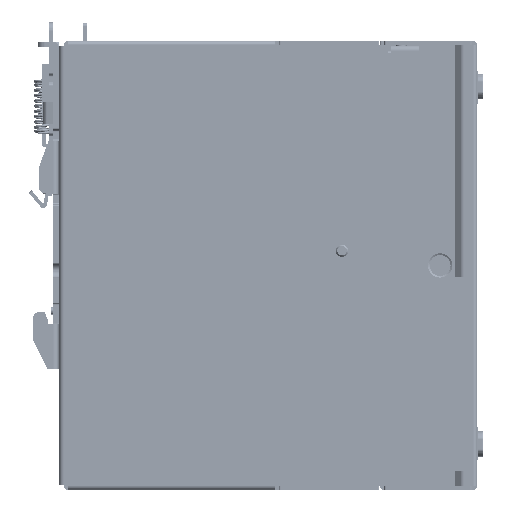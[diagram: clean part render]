
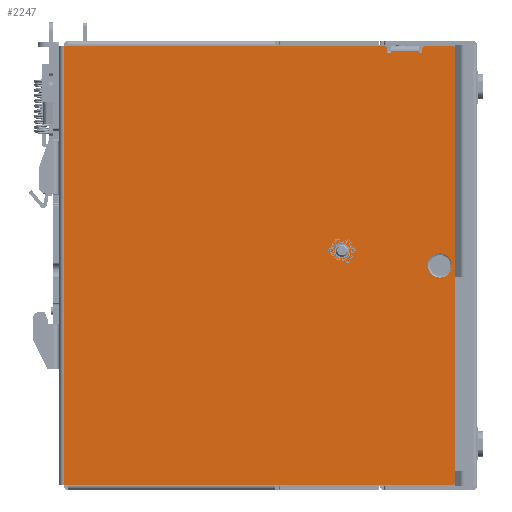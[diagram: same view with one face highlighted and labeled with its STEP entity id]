
A CAD part, front view. The second image highlights one B-rep face of the part: STEP entity #2247.
In plain terms, the highlighted planar face has unit normal (0, -1, 0).
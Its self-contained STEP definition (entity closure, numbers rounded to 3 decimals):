
#15=CARTESIAN_POINT('',(76.5,0.,-56.971));
#16=DIRECTION('',(0.,1.,0.));
#17=DIRECTION('',(0.,0.,1.));
#18=AXIS2_PLACEMENT_3D('',#15,#16,#17);
#24=CARTESIAN_POINT('',(76.5,0.,-56.971));
#25=DIRECTION('',(0.,1.,0.));
#26=DIRECTION('',(0.,0.,-1.));
#27=AXIS2_PLACEMENT_3D('',#24,#25,#26);
#32=CARTESIAN_POINT('',(103.5,0.,-61.));
#33=DIRECTION('',(0.,1.,0.));
#34=DIRECTION('',(0.,0.,1.));
#35=AXIS2_PLACEMENT_3D('',#32,#33,#34);
#40=CARTESIAN_POINT('',(103.5,0.,-61.));
#41=DIRECTION('',(0.,1.,0.));
#42=DIRECTION('',(0.,0.,-1.));
#43=AXIS2_PLACEMENT_3D('',#40,#41,#42);
#48=CARTESIAN_POINT('',(87.9,0.,-1.5));
#49=DIRECTION('',(0.,-1.,0.));
#50=DIRECTION('',(1.,0.,0.));
#51=AXIS2_PLACEMENT_3D('',#48,#49,#50);
#56=DIRECTION('',(0.,0.,-1.));
#57=VECTOR('',#56,0.8);
#58=CARTESIAN_POINT('',(88.9,0.,-1.5));
#59=LINE('',#58,#57);
#63=DIRECTION('',(-1.,0.,0.));
#64=VECTOR('',#63,0.6);
#65=CARTESIAN_POINT('',(89.7,0.,-2.5));
#66=LINE('',#65,#64);
#70=DIRECTION('',(0.,0.,-1.));
#71=VECTOR('',#70,0.3);
#72=CARTESIAN_POINT('',(89.9,0.,-2.));
#73=LINE('',#72,#71);
#77=DIRECTION('',(0.,0.,-1.));
#78=VECTOR('',#77,0.3);
#79=CARTESIAN_POINT('',(97.6,0.,-2.));
#80=LINE('',#79,#78);
#84=DIRECTION('',(-1.,0.,0.));
#85=VECTOR('',#84,0.6);
#86=CARTESIAN_POINT('',(98.4,0.,-2.5));
#87=LINE('',#86,#85);
#91=DIRECTION('',(0.,0.,-1.));
#92=VECTOR('',#91,0.8);
#93=CARTESIAN_POINT('',(98.6,0.,-1.5));
#94=LINE('',#93,#92);
#98=CARTESIAN_POINT('',(99.6,0.,-1.5));
#99=DIRECTION('',(0.,-1.,0.));
#100=DIRECTION('',(0.,0.,1.));
#101=AXIS2_PLACEMENT_3D('',#98,#99,#100);
#106=DIRECTION('',(1.,0.,0.));
#107=VECTOR('',#106,7.);
#108=CARTESIAN_POINT('',(99.6,0.,-0.5));
#109=LINE('',#108,#107);
#113=CARTESIAN_POINT('',(106.6,0.,-1.5));
#114=DIRECTION('',(0.,-1.,0.));
#115=DIRECTION('',(1.,0.,0.));
#116=AXIS2_PLACEMENT_3D('',#113,#114,#115);
#121=DIRECTION('',(0.,0.,-1.));
#122=VECTOR('',#121,119.);
#123=CARTESIAN_POINT('',(107.6,0.,-1.5));
#124=LINE('',#123,#122);
#128=CARTESIAN_POINT('',(106.6,0.,-120.5));
#129=DIRECTION('',(0.,-1.,0.));
#130=DIRECTION('',(0.,0.,-1.));
#131=AXIS2_PLACEMENT_3D('',#128,#129,#130);
#136=DIRECTION('',(1.,0.,0.));
#137=VECTOR('',#136,106.6);
#138=CARTESIAN_POINT('',(0.,0.,-121.5));
#139=LINE('',#138,#137);
#143=DIRECTION('',(1.,0.,0.));
#144=VECTOR('',#143,87.9);
#145=CARTESIAN_POINT('',(0.,0.,-0.5));
#146=LINE('',#145,#144);
#505=DIRECTION('',(1.,0.,0.));
#506=VECTOR('',#505,7.7);
#507=CARTESIAN_POINT('',(89.9,0.,-2.));
#508=LINE('',#507,#506);
#541=CARTESIAN_POINT('',(97.8,0.,-2.3));
#542=DIRECTION('',(0.,1.,0.));
#543=DIRECTION('',(0.,0.,-1.));
#544=AXIS2_PLACEMENT_3D('',#541,#542,#543);
#571=CARTESIAN_POINT('',(98.4,0.,-2.3));
#572=DIRECTION('',(0.,1.,0.));
#573=DIRECTION('',(1.,0.,0.));
#574=AXIS2_PLACEMENT_3D('',#571,#572,#573);
#1773=CARTESIAN_POINT('',(89.1,0.,-2.3));
#1774=DIRECTION('',(0.,1.,0.));
#1775=DIRECTION('',(0.,0.,-1.));
#1776=AXIS2_PLACEMENT_3D('',#1773,#1774,#1775);
#1803=CARTESIAN_POINT('',(89.7,0.,-2.3));
#1804=DIRECTION('',(0.,1.,0.));
#1805=DIRECTION('',(1.,0.,0.));
#1806=AXIS2_PLACEMENT_3D('',#1803,#1804,#1805);
#1849=DIRECTION('',(0.,0.,1.));
#1850=VECTOR('',#1849,121.);
#1851=CARTESIAN_POINT('',(0.,0.,-121.5));
#1852=LINE('',#1851,#1850);
#1948=CARTESIAN_POINT('',(76.5,0.,-54.971));
#1949=CARTESIAN_POINT('',(76.5,0.,-58.971));
#1950=VERTEX_POINT('',#1948);
#1951=VERTEX_POINT('',#1949);
#1960=CARTESIAN_POINT('',(103.5,0.,-57.65));
#1961=CARTESIAN_POINT('',(103.5,0.,-64.35));
#1962=VERTEX_POINT('',#1960);
#1963=VERTEX_POINT('',#1961);
#1981=CARTESIAN_POINT('',(0.,0.,-121.5));
#1983=VERTEX_POINT('',#1981);
#1985=CARTESIAN_POINT('',(0.,0.,-0.5));
#1987=VERTEX_POINT('',#1985);
#2000=CARTESIAN_POINT('',(107.6,0.,-1.5));
#2001=CARTESIAN_POINT('',(106.6,0.,-0.5));
#2002=VERTEX_POINT('',#2000);
#2003=VERTEX_POINT('',#2001);
#2016=CARTESIAN_POINT('',(106.6,0.,-121.5));
#2017=CARTESIAN_POINT('',(107.6,0.,-120.5));
#2018=VERTEX_POINT('',#2016);
#2019=VERTEX_POINT('',#2017);
#2028=CARTESIAN_POINT('',(97.6,0.,-2.));
#2029=VERTEX_POINT('',#2028);
#2030=CARTESIAN_POINT('',(89.9,0.,-2.));
#2031=VERTEX_POINT('',#2030);
#2036=CARTESIAN_POINT('',(88.9,0.,-1.5));
#2037=CARTESIAN_POINT('',(87.9,0.,-0.5));
#2038=VERTEX_POINT('',#2036);
#2039=VERTEX_POINT('',#2037);
#2044=CARTESIAN_POINT('',(99.6,0.,-0.5));
#2045=CARTESIAN_POINT('',(98.6,0.,-1.5));
#2046=VERTEX_POINT('',#2044);
#2047=VERTEX_POINT('',#2045);
#2052=CARTESIAN_POINT('',(89.1,0.,-2.5));
#2054=VERTEX_POINT('',#2052);
#2056=CARTESIAN_POINT('',(88.9,0.,-2.3));
#2058=VERTEX_POINT('',#2056);
#2060=CARTESIAN_POINT('',(97.8,0.,-2.5));
#2062=VERTEX_POINT('',#2060);
#2064=CARTESIAN_POINT('',(97.6,0.,-2.3));
#2066=VERTEX_POINT('',#2064);
#2068=CARTESIAN_POINT('',(98.6,0.,-2.3));
#2070=VERTEX_POINT('',#2068);
#2072=CARTESIAN_POINT('',(98.4,0.,-2.5));
#2074=VERTEX_POINT('',#2072);
#2076=CARTESIAN_POINT('',(89.9,0.,-2.3));
#2078=VERTEX_POINT('',#2076);
#2080=CARTESIAN_POINT('',(89.7,0.,-2.5));
#2082=VERTEX_POINT('',#2080);
#2188=CARTESIAN_POINT('',(0.,0.,0.));
#2189=DIRECTION('',(0.,1.,0.));
#2190=DIRECTION('',(1.,0.,0.));
#2191=AXIS2_PLACEMENT_3D('',#2188,#2189,#2190);
#2192=PLANE('',#2191);
#2194=ORIENTED_EDGE('',*,*,#2193,.F.);
#2196=ORIENTED_EDGE('',*,*,#2195,.T.);
#2198=ORIENTED_EDGE('',*,*,#2197,.F.);
#2200=ORIENTED_EDGE('',*,*,#2199,.F.);
#2202=ORIENTED_EDGE('',*,*,#2201,.F.);
#2204=ORIENTED_EDGE('',*,*,#2203,.F.);
#2206=ORIENTED_EDGE('',*,*,#2205,.T.);
#2208=ORIENTED_EDGE('',*,*,#2207,.T.);
#2210=ORIENTED_EDGE('',*,*,#2209,.F.);
#2212=ORIENTED_EDGE('',*,*,#2211,.F.);
#2214=ORIENTED_EDGE('',*,*,#2213,.F.);
#2216=ORIENTED_EDGE('',*,*,#2215,.F.);
#2218=ORIENTED_EDGE('',*,*,#2217,.F.);
#2220=ORIENTED_EDGE('',*,*,#2219,.T.);
#2222=ORIENTED_EDGE('',*,*,#2221,.F.);
#2224=ORIENTED_EDGE('',*,*,#2223,.T.);
#2226=ORIENTED_EDGE('',*,*,#2225,.F.);
#2228=ORIENTED_EDGE('',*,*,#2227,.F.);
#2230=ORIENTED_EDGE('',*,*,#2229,.T.);
#2232=ORIENTED_EDGE('',*,*,#2231,.T.);
#2233=EDGE_LOOP('',(#2194,#2196,#2198,#2200,#2202,#2204,#2206,#2208,#2210,#2212,
#2214,#2216,#2218,#2220,#2222,#2224,#2226,#2228,#2230,#2232));
#2234=FACE_OUTER_BOUND('',#2233,.F.);
#2236=ORIENTED_EDGE('',*,*,#2235,.F.);
#2238=ORIENTED_EDGE('',*,*,#2237,.F.);
#2239=EDGE_LOOP('',(#2236,#2238));
#2240=FACE_BOUND('',#2239,.F.);
#2242=ORIENTED_EDGE('',*,*,#2241,.F.);
#2244=ORIENTED_EDGE('',*,*,#2243,.F.);
#2245=EDGE_LOOP('',(#2242,#2244));
#2246=FACE_BOUND('',#2245,.F.);
#19=CIRCLE('',#18,2.);
#28=CIRCLE('',#27,2.);
#36=CIRCLE('',#35,3.35);
#44=CIRCLE('',#43,3.35);
#52=CIRCLE('',#51,1.);
#102=CIRCLE('',#101,1.);
#117=CIRCLE('',#116,1.);
#132=CIRCLE('',#131,1.);
#545=CIRCLE('',#544,0.2);
#575=CIRCLE('',#574,0.2);
#1777=CIRCLE('',#1776,0.2);
#1807=CIRCLE('',#1806,0.2);
#2193=EDGE_CURVE('',#2038,#2039,#52,.T.);
#2195=EDGE_CURVE('',#2038,#2058,#59,.T.);
#2197=EDGE_CURVE('',#2054,#2058,#1777,.T.);
#2199=EDGE_CURVE('',#2082,#2054,#66,.T.);
#2201=EDGE_CURVE('',#2078,#2082,#1807,.T.);
#2203=EDGE_CURVE('',#2031,#2078,#73,.T.);
#2205=EDGE_CURVE('',#2031,#2029,#508,.T.);
#2207=EDGE_CURVE('',#2029,#2066,#80,.T.);
#2209=EDGE_CURVE('',#2062,#2066,#545,.T.);
#2211=EDGE_CURVE('',#2074,#2062,#87,.T.);
#2213=EDGE_CURVE('',#2070,#2074,#575,.T.);
#2215=EDGE_CURVE('',#2047,#2070,#94,.T.);
#2217=EDGE_CURVE('',#2046,#2047,#102,.T.);
#2219=EDGE_CURVE('',#2046,#2003,#109,.T.);
#2221=EDGE_CURVE('',#2002,#2003,#117,.T.);
#2223=EDGE_CURVE('',#2002,#2019,#124,.T.);
#2225=EDGE_CURVE('',#2018,#2019,#132,.T.);
#2227=EDGE_CURVE('',#1983,#2018,#139,.T.);
#2229=EDGE_CURVE('',#1983,#1987,#1852,.T.);
#2231=EDGE_CURVE('',#1987,#2039,#146,.T.);
#2235=EDGE_CURVE('',#1962,#1963,#36,.T.);
#2237=EDGE_CURVE('',#1963,#1962,#44,.T.);
#2241=EDGE_CURVE('',#1950,#1951,#19,.T.);
#2243=EDGE_CURVE('',#1951,#1950,#28,.T.);
#2247=ADVANCED_FACE('',(#2234,#2240,#2246),#2192,.F.);
